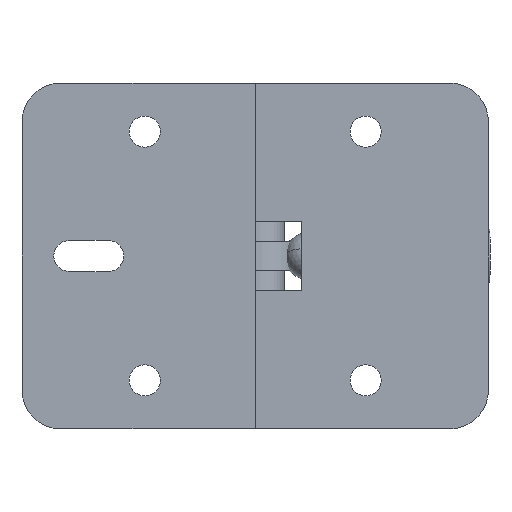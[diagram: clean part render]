
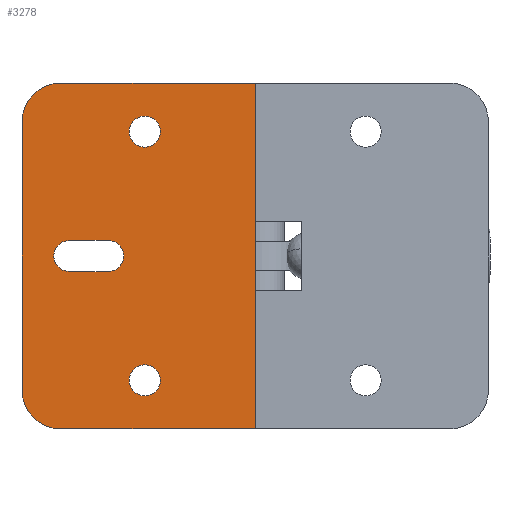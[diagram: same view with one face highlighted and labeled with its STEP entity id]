
A CAD part, front view. The second image highlights one B-rep face of the part: STEP entity #3278.
In plain terms, the highlighted planar face has unit normal (0, -1, 0).
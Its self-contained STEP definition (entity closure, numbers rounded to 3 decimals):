
#33 = LINE ( 'NONE', #17929, #8129 ) ;
#81 = DIRECTION ( 'NONE',  ( -1., 0., 0. ) ) ;
#165 = CARTESIAN_POINT ( 'NONE',  ( -30., -7.25, 5. ) ) ;
#189 = FACE_OUTER_BOUND ( 'NONE', #13644, .T. ) ;
#492 = EDGE_LOOP ( 'NONE', ( #5956, #22942 ) ) ;
#501 = CIRCLE ( 'NONE', #1267, 5. ) ;
#648 = CARTESIAN_POINT ( 'NONE',  ( -25., -7.25, 5. ) ) ;
#1115 = VECTOR ( 'NONE', #15862, 1000. ) ;
#1267 = AXIS2_PLACEMENT_3D ( 'NONE', #648, #22899, #2698 ) ;
#1337 = VERTEX_POINT ( 'NONE', #12111 ) ;
#1710 = CARTESIAN_POINT ( 'NONE',  ( -14.2, -7.25, 38.25 ) ) ;
#1754 = DIRECTION ( 'NONE',  ( -1., 0., 0. ) ) ;
#2201 = AXIS2_PLACEMENT_3D ( 'NONE', #8424, #19440, #12285 ) ;
#2250 = DIRECTION ( 'NONE',  ( 0., 1., 0. ) ) ;
#2480 = ORIENTED_EDGE ( 'NONE', *, *, #20496, .T. ) ;
#2503 = ORIENTED_EDGE ( 'NONE', *, *, #3719, .T. ) ;
#2698 = DIRECTION ( 'NONE',  ( -1., 0., 0. ) ) ;
#2757 = CARTESIAN_POINT ( 'NONE',  ( 0., -7.25, 44.5 ) ) ;
#2788 = LINE ( 'NONE', #22986, #10700 ) ;
#3026 = VERTEX_POINT ( 'NONE', #16159 ) ;
#3123 = CARTESIAN_POINT ( 'NONE',  ( 0., -7.25, 44.5 ) ) ;
#3151 = VERTEX_POINT ( 'NONE', #19789 ) ;
#3278 = ADVANCED_FACE ( 'NONE', ( #11424, #9386, #20740, #189 ), #22327, .F. ) ;
#3352 = CIRCLE ( 'NONE', #2201, 2. ) ;
#3421 = ORIENTED_EDGE ( 'NONE', *, *, #5396, .T. ) ;
#3694 = ORIENTED_EDGE ( 'NONE', *, *, #17653, .T. ) ;
#3719 = EDGE_CURVE ( 'NONE', #18483, #22649, #501, .T. ) ;
#3999 = VERTEX_POINT ( 'NONE', #16345 ) ;
#4123 = DIRECTION ( 'NONE',  ( 1., 0., 0. ) ) ;
#5396 = EDGE_CURVE ( 'NONE', #3026, #16589, #13798, .T. ) ;
#5572 = CARTESIAN_POINT ( 'NONE',  ( -23.9, -7.25, 20.25 ) ) ;
#5646 = CIRCLE ( 'NONE', #19920, 2. ) ;
#5772 = DIRECTION ( 'NONE',  ( 0., 1., 0. ) ) ;
#5790 = AXIS2_PLACEMENT_3D ( 'NONE', #9767, #5772, #7839 ) ;
#5795 = CARTESIAN_POINT ( 'NONE',  ( -30., -7.25, 39.5 ) ) ;
#5830 = VECTOR ( 'NONE', #4123, 1000. ) ;
#5956 = ORIENTED_EDGE ( 'NONE', *, *, #6846, .T. ) ;
#6283 = VERTEX_POINT ( 'NONE', #3123 ) ;
#6371 = LINE ( 'NONE', #2757, #10345 ) ;
#6833 = ORIENTED_EDGE ( 'NONE', *, *, #17713, .T. ) ;
#6846 = EDGE_CURVE ( 'NONE', #18754, #20260, #23483, .T. ) ;
#7276 = DIRECTION ( 'NONE',  ( 0., 1., 0. ) ) ;
#7298 = DIRECTION ( 'NONE',  ( -1., 0., 0. ) ) ;
#7385 = LINE ( 'NONE', #16692, #5830 ) ;
#7839 = DIRECTION ( 'NONE',  ( -1., 0., 0. ) ) ;
#7863 = CARTESIAN_POINT ( 'NONE',  ( -18.9, -7.25, 22.25 ) ) ;
#8129 = VECTOR ( 'NONE', #7298, 1000. ) ;
#8424 = CARTESIAN_POINT ( 'NONE',  ( -14.2, -7.25, 38.25 ) ) ;
#8539 = CIRCLE ( 'NONE', #16660, 2. ) ;
#8665 = CARTESIAN_POINT ( 'NONE',  ( -14.2, -7.25, 6.25 ) ) ;
#8935 = EDGE_CURVE ( 'NONE', #6283, #3999, #15626, .T. ) ;
#8946 = EDGE_LOOP ( 'NONE', ( #10430, #21799, #20192, #2480 ) ) ;
#9121 = CIRCLE ( 'NONE', #22255, 2. ) ;
#9144 = VECTOR ( 'NONE', #23193, 1000. ) ;
#9386 = FACE_BOUND ( 'NONE', #12115, .T. ) ;
#9767 = CARTESIAN_POINT ( 'NONE',  ( -23.9, -7.25, 22.25 ) ) ;
#9839 = EDGE_CURVE ( 'NONE', #3026, #6283, #6371, .T. ) ;
#10033 = DIRECTION ( 'NONE',  ( 0., 0., -1. ) ) ;
#10284 = EDGE_CURVE ( 'NONE', #13504, #11768, #7385, .T. ) ;
#10345 = VECTOR ( 'NONE', #13753, 1000. ) ;
#10427 = ORIENTED_EDGE ( 'NONE', *, *, #11413, .T. ) ;
#10430 = ORIENTED_EDGE ( 'NONE', *, *, #10284, .T. ) ;
#10700 = VECTOR ( 'NONE', #10033, 1000. ) ;
#11174 = DIRECTION ( 'NONE',  ( 0., 1., 0. ) ) ;
#11225 = CARTESIAN_POINT ( 'NONE',  ( -14.2, -7.25, 40.25 ) ) ;
#11413 = EDGE_CURVE ( 'NONE', #16649, #1337, #8539, .T. ) ;
#11424 = FACE_BOUND ( 'NONE', #8946, .T. ) ;
#11480 = AXIS2_PLACEMENT_3D ( 'NONE', #16699, #14878, #11493 ) ;
#11493 = DIRECTION ( 'NONE',  ( -1., 0., 0. ) ) ;
#11768 = VERTEX_POINT ( 'NONE', #21283 ) ;
#12111 = CARTESIAN_POINT ( 'NONE',  ( -14.2, -7.25, 36.25 ) ) ;
#12115 = EDGE_LOOP ( 'NONE', ( #10427, #3694 ) ) ;
#12285 = DIRECTION ( 'NONE',  ( -1., 0., 0. ) ) ;
#12340 = CARTESIAN_POINT ( 'NONE',  ( 0., -7.25, 44.5 ) ) ;
#12404 = CARTESIAN_POINT ( 'NONE',  ( 0., -7.25, 0. ) ) ;
#12986 = CARTESIAN_POINT ( 'NONE',  ( -14.2, -7.25, 6.25 ) ) ;
#13433 = ORIENTED_EDGE ( 'NONE', *, *, #8935, .F. ) ;
#13504 = VERTEX_POINT ( 'NONE', #20265 ) ;
#13644 = EDGE_LOOP ( 'NONE', ( #22279, #2503, #6833, #13433, #17081, #3421 ) ) ;
#13683 = CARTESIAN_POINT ( 'NONE',  ( -14.2, -7.25, 4.25 ) ) ;
#13753 = DIRECTION ( 'NONE',  ( 1., 0., 0. ) ) ;
#13798 = CIRCLE ( 'NONE', #11480, 5. ) ;
#14671 = VERTEX_POINT ( 'NONE', #5572 ) ;
#14878 = DIRECTION ( 'NONE',  ( 0., -1., 0. ) ) ;
#15545 = EDGE_CURVE ( 'NONE', #20260, #18754, #9121, .T. ) ;
#15585 = DIRECTION ( 'NONE',  ( 0., 1., 0. ) ) ;
#15626 = LINE ( 'NONE', #12340, #1115 ) ;
#15862 = DIRECTION ( 'NONE',  ( 0., 0., -1. ) ) ;
#16159 = CARTESIAN_POINT ( 'NONE',  ( -25., -7.25, 44.5 ) ) ;
#16211 = CIRCLE ( 'NONE', #5790, 2. ) ;
#16345 = CARTESIAN_POINT ( 'NONE',  ( 0., -7.25, 0. ) ) ;
#16589 = VERTEX_POINT ( 'NONE', #5795 ) ;
#16649 = VERTEX_POINT ( 'NONE', #11225 ) ;
#16660 = AXIS2_PLACEMENT_3D ( 'NONE', #1710, #7276, #23489 ) ;
#16692 = CARTESIAN_POINT ( 'NONE',  ( 0., -7.25, 24.25 ) ) ;
#16699 = CARTESIAN_POINT ( 'NONE',  ( -25., -7.25, 39.5 ) ) ;
#16765 = EDGE_CURVE ( 'NONE', #11768, #3151, #5646, .T. ) ;
#17081 = ORIENTED_EDGE ( 'NONE', *, *, #9839, .F. ) ;
#17510 = DIRECTION ( 'NONE',  ( -1., 0., 0. ) ) ;
#17653 = EDGE_CURVE ( 'NONE', #1337, #16649, #3352, .T. ) ;
#17713 = EDGE_CURVE ( 'NONE', #22649, #3999, #19670, .T. ) ;
#17859 = DIRECTION ( 'NONE',  ( 0., 1., 0. ) ) ;
#17929 = CARTESIAN_POINT ( 'NONE',  ( 0., -7.25, 20.25 ) ) ;
#18025 = CARTESIAN_POINT ( 'NONE',  ( -14.2, -7.25, 8.25 ) ) ;
#18066 = AXIS2_PLACEMENT_3D ( 'NONE', #12986, #11174, #1754 ) ;
#18483 = VERTEX_POINT ( 'NONE', #165 ) ;
#18754 = VERTEX_POINT ( 'NONE', #18025 ) ;
#18927 = DIRECTION ( 'NONE',  ( -1., 0., 0. ) ) ;
#18953 = CARTESIAN_POINT ( 'NONE',  ( -25., -7.25, 0. ) ) ;
#19064 = EDGE_CURVE ( 'NONE', #16589, #18483, #2788, .T. ) ;
#19440 = DIRECTION ( 'NONE',  ( 0., 1., 0. ) ) ;
#19670 = LINE ( 'NONE', #12404, #9144 ) ;
#19789 = CARTESIAN_POINT ( 'NONE',  ( -18.9, -7.25, 20.25 ) ) ;
#19920 = AXIS2_PLACEMENT_3D ( 'NONE', #7863, #15585, #17510 ) ;
#20192 = ORIENTED_EDGE ( 'NONE', *, *, #21304, .T. ) ;
#20260 = VERTEX_POINT ( 'NONE', #13683 ) ;
#20265 = CARTESIAN_POINT ( 'NONE',  ( -23.9, -7.25, 24.25 ) ) ;
#20496 = EDGE_CURVE ( 'NONE', #14671, #13504, #16211, .T. ) ;
#20623 = CARTESIAN_POINT ( 'NONE',  ( 0., -7.25, 44.5 ) ) ;
#20740 = FACE_BOUND ( 'NONE', #492, .T. ) ;
#21283 = CARTESIAN_POINT ( 'NONE',  ( -18.9, -7.25, 24.25 ) ) ;
#21304 = EDGE_CURVE ( 'NONE', #3151, #14671, #33, .T. ) ;
#21799 = ORIENTED_EDGE ( 'NONE', *, *, #16765, .T. ) ;
#22255 = AXIS2_PLACEMENT_3D ( 'NONE', #8665, #17859, #81 ) ;
#22279 = ORIENTED_EDGE ( 'NONE', *, *, #19064, .T. ) ;
#22327 = PLANE ( 'NONE',  #23241 ) ;
#22649 = VERTEX_POINT ( 'NONE', #18953 ) ;
#22899 = DIRECTION ( 'NONE',  ( 0., -1., 0. ) ) ;
#22942 = ORIENTED_EDGE ( 'NONE', *, *, #15545, .T. ) ;
#22986 = CARTESIAN_POINT ( 'NONE',  ( -30., -7.25, 44.5 ) ) ;
#23193 = DIRECTION ( 'NONE',  ( 1., 0., 0. ) ) ;
#23241 = AXIS2_PLACEMENT_3D ( 'NONE', #20623, #2250, #18927 ) ;
#23483 = CIRCLE ( 'NONE', #18066, 2. ) ;
#23489 = DIRECTION ( 'NONE',  ( -1., 0., 0. ) ) ;
